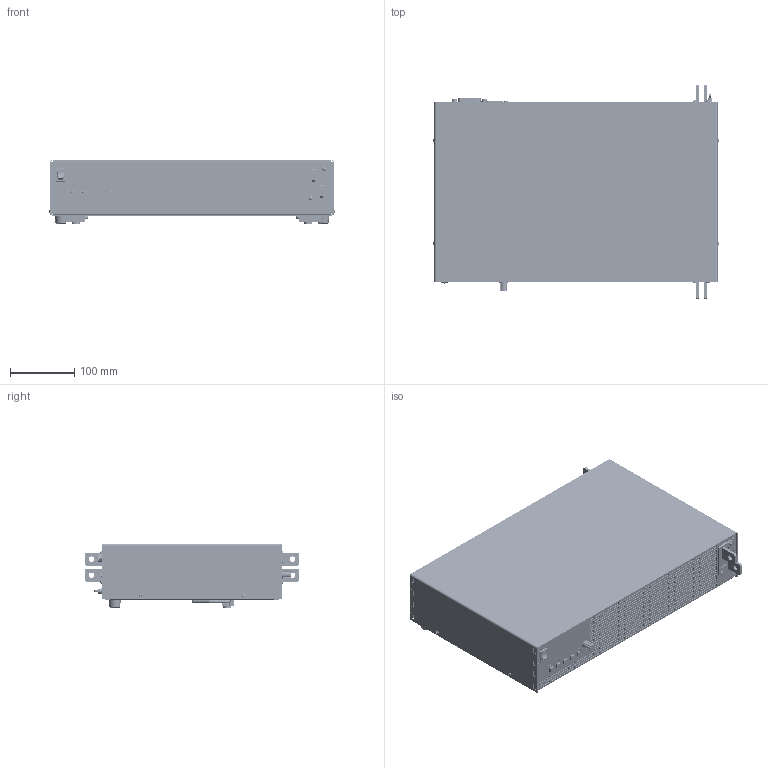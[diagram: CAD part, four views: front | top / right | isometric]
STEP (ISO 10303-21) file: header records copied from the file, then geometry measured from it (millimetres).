
FILE_DESCRIPTION(('STEP AP214'),'1');
FILE_NAME('PLA_M10_2HE_FKS20_4SM8_FKS20_4_SM8_3D_02.step','2024-08-19T13:39:50',(' '),(' '),'Spatial InterOp 3D',' ',' ');
FILE_SCHEMA(('AUTOMOTIVE_DESIGN { 1 0 10303 214 1 1 1 1 }'));
Length unit declared in the file: millimetre
Products named in the file (7): PLA_M10_2HE_FKS20_4SM8_FKS20_4_SM8_3D_02; *U157; *U158; *U159; *U160; *U161; AutoCreatedBlock_1BA
Assembly tree (10 placements, depth 2):
  PLA_M10_2HE_FKS20_4SM8_FKS20_4_SM8_3D_02
    *U157  x2
    *U158
    *U159  x2
    *U160
    *U161  x3
    AutoCreatedBlock_1BA
Bounding box: 444.06 x 333.5 x 100.18 mm (x, y, z)
Volume: 9897709.6 mm3; surface area: 1186255.7 mm2
Topology: 117 solids, 120 shells, 10556 faces, 28814 edges, 18598 vertices
Faces by surface type: plane 5667, cylinder 2427, cone 1856, torus 260, bspline 248, sphere 96, extrusion 2
Entity records: 429802 total; most frequent: CARTESIAN_POINT 74750, ORIENTED_EDGE 56374, DIRECTION 55707, EDGE_CURVE 28187, VECTOR 19667, LINE 19665, AXIS2_PLACEMENT_3D 18020, VERTEX_POINT 17981
